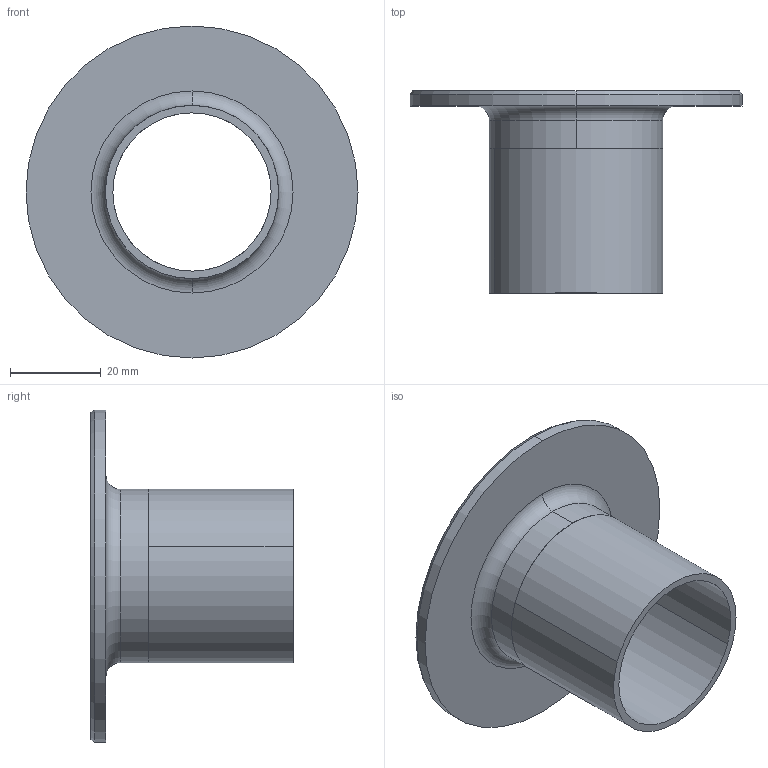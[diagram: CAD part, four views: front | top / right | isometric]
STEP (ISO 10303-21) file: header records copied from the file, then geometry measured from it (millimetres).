
FILE_DESCRIPTION (( 'STEP AP203' ), '1' );
FILE_NAME ('E14WA1.5.STEP', '2018-05-04T18:09:40', ( 'vneprd' ), ( 'Microsoft' ), 'SwSTEP 2.0', 'SolidWorks 2014', '' );
FILE_SCHEMA (( 'CONFIG_CONTROL_DESIGN' ));
Length unit declared in the file: inch
Products named in the file (3): V14WAB1.5; TUBE1.5X1.25; E14WA1.5
Assembly tree (2 placements, depth 2):
  E14WA1.5
    V14WAB1.5
    TUBE1.5X1.25
Bounding box: 73 x 44.45 x 73 mm (x, y, z)
Volume: 17474.1 mm3; surface area: 20232.4 mm2
Topology: 2 solids, 2 shells, 99 faces, 198 edges, 104 vertices
Faces by surface type: cone 82, cylinder 10, plane 5, torus 2
Entity records: 2825 total; most frequent: DIRECTION 512, CARTESIAN_POINT 406, ORIENTED_EDGE 396, AXIS2_PLACEMENT_3D 210, EDGE_CURVE 198, CIRCLE 106, EDGE_LOOP 104, VERTEX_POINT 104
